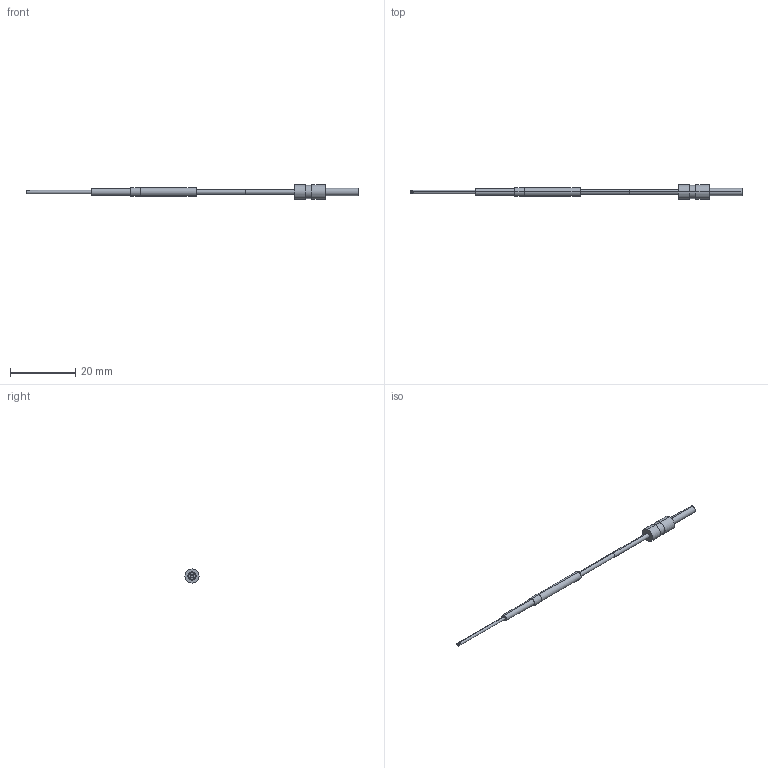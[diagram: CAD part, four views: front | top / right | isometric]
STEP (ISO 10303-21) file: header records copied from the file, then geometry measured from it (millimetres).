
FILE_DESCRIPTION (( 'STEP AP203' ), '1' );
FILE_NAME ('FT-V22.STEP', '2005-09-08T15:20:03', ( ' ' ), ( ' ' ), 'SwSTEP 2.0', 'SolidWorks 2004073', '' );
FILE_SCHEMA (( 'CONFIG_CONTROL_DESIGN' ));
Length unit declared in the file: millimetre
Products named in the file (1): FT-V22
Bounding box: 101.5 x 4.3 x 4.3 mm (x, y, z)
Volume: 377.8 mm3; surface area: 677 mm2
Topology: 2 solids, 2 shells, 35 faces, 67 edges, 44 vertices
Faces by surface type: cylinder 22, plane 13
Entity records: 1010 total; most frequent: CARTESIAN_POINT 183, DIRECTION 177, ORIENTED_EDGE 134, AXIS2_PLACEMENT_3D 78, EDGE_CURVE 67, VERTEX_POINT 44, EDGE_LOOP 43, CIRCLE 42
